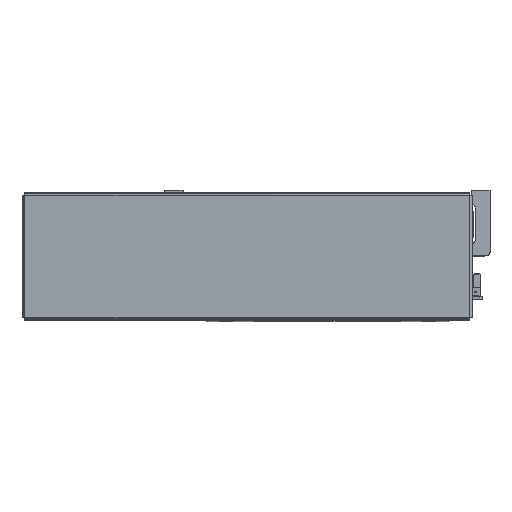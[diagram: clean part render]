
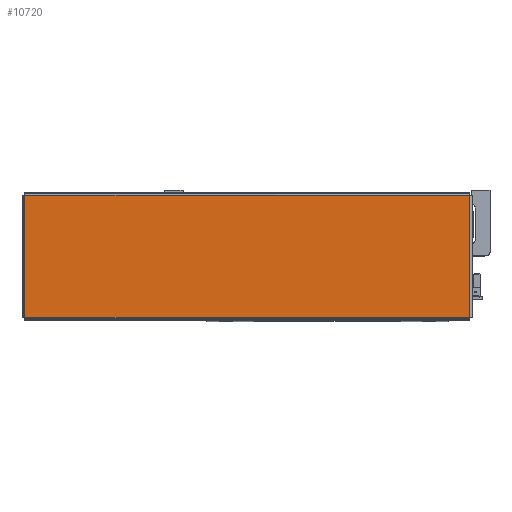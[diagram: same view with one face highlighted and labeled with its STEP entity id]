
A CAD part, top view. The second image highlights one B-rep face of the part: STEP entity #10720.
In plain terms, the highlighted planar face has unit normal (0, 0, 1) as drawn and (0, -1, 0) by its records, which use the part's own axes.
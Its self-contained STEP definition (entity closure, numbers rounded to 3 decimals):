
#28 = CARTESIAN_POINT ( 'NONE',  ( -154.013, -1.2, 42.263 ) ) ;
#57 = CARTESIAN_POINT ( 'NONE',  ( -154.013, -1.2, -42.263 ) ) ;
#83 = CARTESIAN_POINT ( 'NONE',  ( 154.013, -1.2, -42.263 ) ) ;
#126 = CARTESIAN_POINT ( 'NONE',  ( 154.013, -1.2, 42.263 ) ) ;
#6172 = FACE_OUTER_BOUND ( 'NONE', #41425, .T. ) ;
#6850 = EDGE_CURVE ( 'NONE', #29042, #29040, #31483, .T. ) ;
#6858 = EDGE_CURVE ( 'NONE', #29040, #29017, #31489, .T. ) ;
#6861 = EDGE_CURVE ( 'NONE', #29017, #29009, #31528, .T. ) ;
#6864 = EDGE_CURVE ( 'NONE', #29009, #29042, #31547, .T. ) ;
#9819 = AXIS2_PLACEMENT_3D ( 'NONE', #38000, #38027, #37997 ) ;
#10720 = ADVANCED_FACE ( 'NONE', ( #6172 ), #38028, .F. ) ;
#20426 = ORIENTED_EDGE ( 'NONE', *, *, #6850, .T. ) ;
#20428 = ORIENTED_EDGE ( 'NONE', *, *, #6864, .T. ) ;
#20443 = ORIENTED_EDGE ( 'NONE', *, *, #6861, .T. ) ;
#20509 = ORIENTED_EDGE ( 'NONE', *, *, #6858, .T. ) ;
#29009 = VERTEX_POINT ( 'NONE', #57 ) ;
#29017 = VERTEX_POINT ( 'NONE', #28 ) ;
#29040 = VERTEX_POINT ( 'NONE', #126 ) ;
#29042 = VERTEX_POINT ( 'NONE', #83 ) ;
#31483 = LINE ( 'NONE', #32998, #31501 ) ;
#31488 = VECTOR ( 'NONE', #32997, 1000. ) ;
#31489 = LINE ( 'NONE', #32982, #31490 ) ;
#31490 = VECTOR ( 'NONE', #33000, 1000. ) ;
#31501 = VECTOR ( 'NONE', #32968, 1000. ) ;
#31528 = LINE ( 'NONE', #32994, #31488 ) ;
#31547 = LINE ( 'NONE', #32985, #31586 ) ;
#31586 = VECTOR ( 'NONE', #32967, 1000. ) ;
#32967 = DIRECTION ( 'NONE',  ( 1., 0., 0. ) ) ;
#32968 = DIRECTION ( 'NONE',  ( 0., 0., 1. ) ) ;
#32982 = CARTESIAN_POINT ( 'NONE',  ( 154.043, -1.2, 42.263 ) ) ;
#32985 = CARTESIAN_POINT ( 'NONE',  ( -154.043, -1.2, -42.263 ) ) ;
#32994 = CARTESIAN_POINT ( 'NONE',  ( -154.013, -1.2, 42.293 ) ) ;
#32997 = DIRECTION ( 'NONE',  ( 0., 0., -1. ) ) ;
#32998 = CARTESIAN_POINT ( 'NONE',  ( 154.013, -1.2, -42.293 ) ) ;
#33000 = DIRECTION ( 'NONE',  ( -1., 0., 0. ) ) ;
#37997 = DIRECTION ( 'NONE',  ( 0., 0., 1. ) ) ;
#38000 = CARTESIAN_POINT ( 'NONE',  ( 0., -1.2, 0. ) ) ;
#38027 = DIRECTION ( 'NONE',  ( 0., 1., 0. ) ) ;
#38028 = PLANE ( 'NONE',  #9819 ) ;
#41425 = EDGE_LOOP ( 'NONE', ( #20426, #20509, #20443, #20428 ) ) ;
